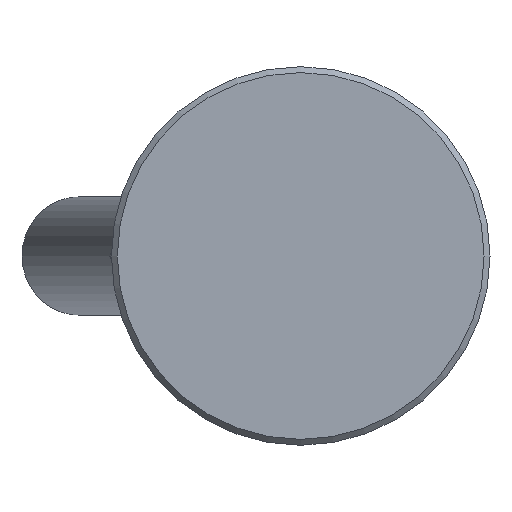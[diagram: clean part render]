
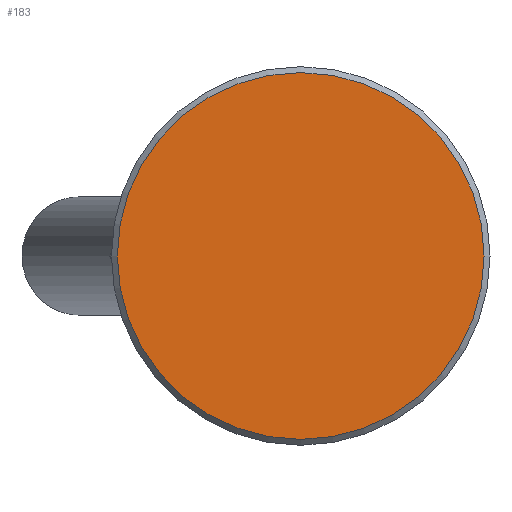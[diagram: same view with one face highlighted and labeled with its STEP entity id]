
A CAD part, front view. The second image highlights one B-rep face of the part: STEP entity #183.
In plain terms, the highlighted planar face has unit normal (0, -1, 0).
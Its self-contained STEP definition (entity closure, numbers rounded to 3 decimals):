
#183 = ADVANCED_FACE( '', ( #355 ), #356, .F. );
#355 = FACE_OUTER_BOUND( '', #537, .T. );
#356 = PLANE( '', #538 );
#537 = EDGE_LOOP( '', ( #801 ) );
#538 = AXIS2_PLACEMENT_3D( '', #802, #803, #804 );
#801 = ORIENTED_EDGE( '', *, *, #1073, .T. );
#802 = CARTESIAN_POINT( '', ( 15.5, 0., 0. ) );
#803 = DIRECTION( '', ( 0., 1., 0. ) );
#804 = DIRECTION( '', ( 0., 0., 1. ) );
#1073 = EDGE_CURVE( '', #1252, #1252, #1253, .T. );
#1252 = VERTEX_POINT( '', #1604 );
#1253 = CIRCLE( '', #1605, 15.5 );
#1604 = CARTESIAN_POINT( '', ( 0., 0., -15.5 ) );
#1605 = AXIS2_PLACEMENT_3D( '', #1869, #1870, #1871 );
#1869 = CARTESIAN_POINT( '', ( 0., 0., 0. ) );
#1870 = DIRECTION( '', ( 0., -1., 0. ) );
#1871 = DIRECTION( '', ( 0., 0., -1. ) );
